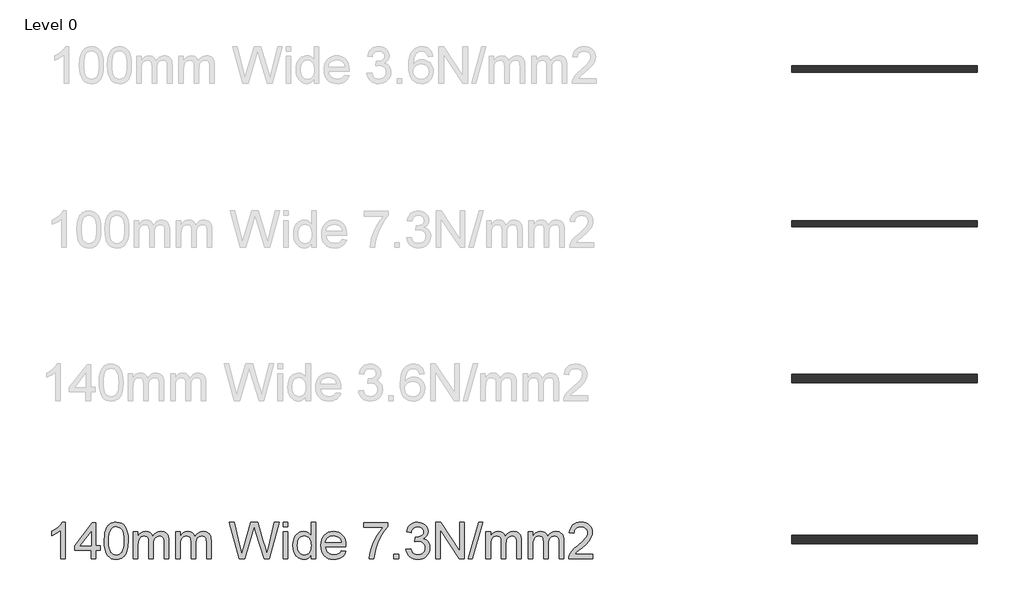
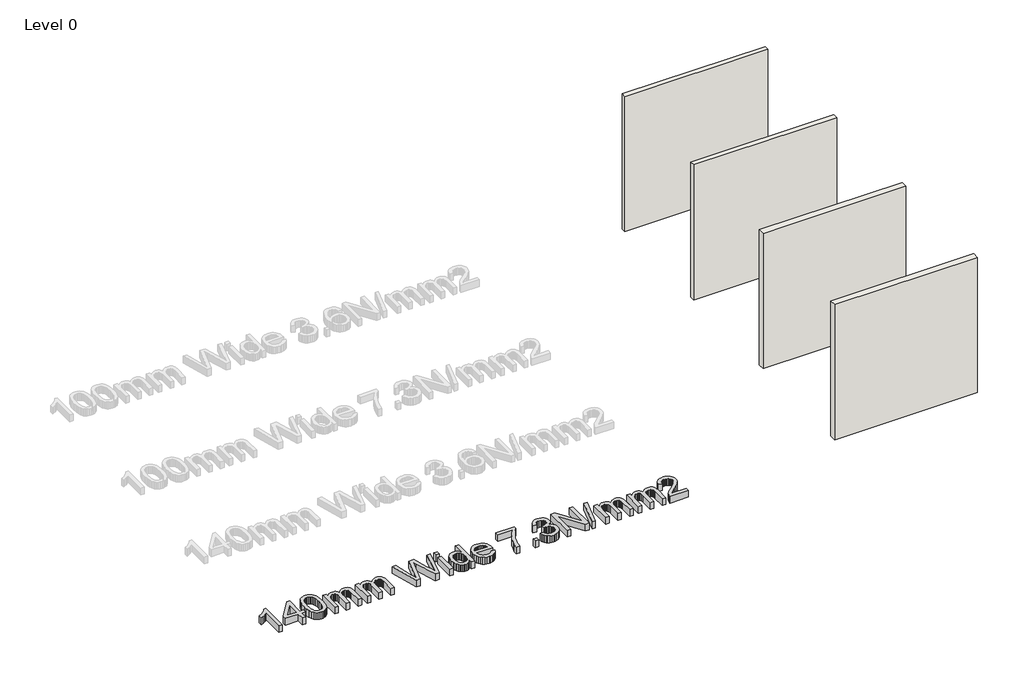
# One storey, part 1 of 4: 4 walls, 1 proxy.
"""IFC4 building model written with IfcOpenShell, lengths in millimetres."""

import ifcopenshell
import ifcopenshell.guid

model = None  # the IFC model being written
_history = None  # IfcOwnerHistory: only IFC2X3 demands one
_inside = {}  # id of a spatial element -> (the spatial element, [elements in it])
_under = {}  # id of a project, library or spatial element -> (it, [spatial elements below it])
_declared = {}  # id of a project -> (the project, [libraries it declares])
_typed = {}  # id of a type object -> (the type object, [elements of that type])
_made_of = {}  # id of a material, layer set ... -> (it, [elements and type objects made of it])


def new_model(schema):
    """Start an empty IFC model of exactly this schema.

    Asked for "IFC4X3", IfcOpenShell would pick the latest addendum, in which some entities
    have other attributes; the version numbers below select the first issue.
    IFC2X3 requires an IfcOwnerHistory on every rooted entity: one is made here for all.
    """
    global model, _history
    if schema == "IFC4X3":
        model = ifcopenshell.file(schema_version=(4, 3, 0, 0))
    else:
        model = ifcopenshell.file(schema=schema)
    _inside.clear()
    _under.clear()
    _declared.clear()
    _typed.clear()
    _made_of.clear()
    _history = None
    if model.schema == "IFC2X3":
        org = make("IfcOrganization", Name="unknown")
        user = make(
            "IfcPersonAndOrganization",
            ThePerson=make("IfcPerson", FamilyName="unknown"),
            TheOrganization=org,
        )
        app = make(
            "IfcApplication",
            ApplicationDeveloper=org,
            Version="unknown",
            ApplicationFullName="unknown",
            ApplicationIdentifier="unknown",
        )
        _history = make(
            "IfcOwnerHistory",
            OwningUser=user,
            OwningApplication=app,
            ChangeAction="ADDED",
            CreationDate=0,
        )
    return model


def make(cls, **values):
    """One entity of the class cls with the attributes given. An attribute that is None is left unset."""
    return model.create_entity(
        cls, **{name: value for name, value in values.items() if value is not None}
    )


def rooted(cls, **values):
    """An entity with a GlobalId (a new one), such as an element, a storey or a relation."""
    return make(cls, GlobalId=ifcopenshell.guid.new(), OwnerHistory=_history, **values)


def si_unit(unit_type, name, prefix=None):
    """IfcSIUnit, for example si_unit("LENGTHUNIT", "METRE", prefix="MILLI")."""
    return make("IfcSIUnit", UnitType=unit_type, Prefix=prefix, Name=name)


def assignment(units):
    """IfcUnitAssignment: the units of a project."""
    return None if units is None else make("IfcUnitAssignment", Units=units)


def point(xyz):
    """IfcCartesianPoint."""
    return None if xyz is None else make("IfcCartesianPoint", Coordinates=xyz)


def direction(xyz):
    """IfcDirection."""
    return None if xyz is None else make("IfcDirection", DirectionRatios=xyz)


def frame(location, z_axis=None, x_axis=None):
    """IfcAxis2Placement3D, a coordinate frame: its origin and axes. An axis left out is left unset."""
    return make(
        "IfcAxis2Placement3D",
        Location=point(location),
        Axis=direction(z_axis),
        RefDirection=direction(x_axis),
    )


def origin():
    """The frame at (0, 0, 0) with its axes left unset."""
    return frame((0.0, 0.0, 0.0))


def origin_with_axes():
    """The frame at (0, 0, 0) with the z axis (0, 0, 1) and the x axis (1, 0, 0) written out."""
    return frame((0.0, 0.0, 0.0), z_axis=(0.0, 0.0, 1.0), x_axis=(1.0, 0.0, 0.0))


def place(relative_to, where):
    """IfcLocalPlacement: puts the frame where relative to a parent placement (None: the world)."""
    return make(
        "IfcLocalPlacement", PlacementRelTo=relative_to, RelativePlacement=where
    )


def context(
    kind, dimensions, precision=None, world=None, true_north=None, identifier=None
):
    """IfcGeometricRepresentationContext, for example the 3D "Model" context."""
    return make(
        "IfcGeometricRepresentationContext",
        ContextIdentifier=identifier,
        ContextType=kind,
        CoordinateSpaceDimension=dimensions,
        Precision=precision,
        WorldCoordinateSystem=world,
        TrueNorth=true_north,
    )


def project(units=None, contexts=None):
    """IfcProject with its units and contexts."""
    return rooted(
        "IfcProject",
        Name="project",
        RepresentationContexts=contexts,
        UnitsInContext=assignment(units),
    )


def spatial(cls, under=None, at=None, **own):
    """A site, building, storey or space (cls), placed at a placement, below another one or the project."""
    s = rooted(cls, ObjectPlacement=at, **own)
    if under is not None:
        _under.setdefault(under.id(), (under, []))[1].append(s)
    return s


def polyline(points):
    """IfcPolyline through the points."""
    return make("IfcPolyline", Points=[point(p) for p in points])


def outline(outer, holes=None, kind="AREA"):
    """IfcArbitraryClosedProfileDef: a profile drawn as a closed curve; with holes, ...WithVoids."""
    if holes is None:
        return make("IfcArbitraryClosedProfileDef", ProfileType=kind, OuterCurve=outer)
    return make(
        "IfcArbitraryProfileDefWithVoids",
        ProfileType=kind,
        OuterCurve=outer,
        InnerCurves=holes,
    )


def extrude(swept, where, along, depth):
    """IfcExtrudedAreaSolid: the profile swept, set in the frame where, extruded along a direction by depth."""
    return make(
        "IfcExtrudedAreaSolid",
        SweptArea=swept,
        Position=where,
        ExtrudedDirection=direction(along),
        Depth=depth,
    )


def shape(context_of_items, identifier, shape_type, items):
    """IfcShapeRepresentation: the items that make up one representation, for example the "Body"."""
    return make(
        "IfcShapeRepresentation",
        ContextOfItems=context_of_items,
        RepresentationIdentifier=identifier,
        RepresentationType=shape_type,
        Items=items,
    )


def made_of(thing, what):
    """Note that an element or type object is made of a material, layer set ...; save() writes the relation."""
    if what is not None:
        _made_of.setdefault(what.id(), (what, []))[1].append(thing)
    return thing


def element(
    cls,
    number,
    at=None,
    inside=None,
    cuts=None,
    type_object=None,
    material=None,
    context=None,
    identifier="Body",
    shape_type=None,
    held_by="IfcProductDefinitionShape",
    body=None,
    shapes=None,
    **own,
):
    """One element of the class cls, such as IfcWall. Its Tag is "e" and its number.

    at: its placement. inside: the storey or other place that contains it. cuts: it is an
    opening in that element (IfcRelVoidsElement). A single representation is given by context,
    identifier, shape_type and body (its items); several are given by shapes. held_by: the class
    of the entity that holds the representations. save() writes the other relations.
    """
    e = rooted(cls, Tag="e%d" % number, ObjectPlacement=at, **own)
    if body is not None:
        shapes = [shape(context, identifier, shape_type, body)]
    if shapes is not None:
        e.Representation = make(held_by, Representations=shapes)
    if inside is not None:
        _inside.setdefault(inside.id(), (inside, []))[1].append(e)
    if cuts is not None:
        rooted(
            "IfcRelVoidsElement", RelatingBuildingElement=cuts, RelatedOpeningElement=e
        )
    if type_object is not None:
        _typed.setdefault(type_object.id(), (type_object, []))[1].append(e)
    return made_of(e, material)


def aggregate(whole, parts):
    """IfcRelAggregates: a whole, such as a stair, and the parts it consists of."""
    return rooted("IfcRelAggregates", RelatingObject=whole, RelatedObjects=parts)


def save(model, path):
    """Write the relations noted so far, then the file.

    IfcRelAggregates (storeys below a building ...), IfcRelContainedInSpatialStructure (elements
    in a storey), IfcRelDefinesByType, IfcRelAssociatesMaterial and IfcRelDeclares: one each for
    every whole, place, type object, material and project.
    """
    for whole, parts in _under.values():
        aggregate(whole, parts)
    for where, things in _inside.values():
        rooted(
            "IfcRelContainedInSpatialStructure",
            RelatedElements=things,
            RelatingStructure=where,
        )
    for kind, things in _typed.values():
        rooted("IfcRelDefinesByType", RelatedObjects=things, RelatingType=kind)
    for what, things in _made_of.values():
        rooted("IfcRelAssociatesMaterial", RelatedObjects=things, RelatingMaterial=what)
    for by, libraries in _declared.values():
        rooted("IfcRelDeclares", RelatingContext=by, RelatedDefinitions=libraries)
    model.write(path)


model = new_model("IFC4")

# Units and contexts
model_context = context("Model", 3, world=origin())
ifc_project = project(units=[si_unit("LENGTHUNIT", "METRE", prefix="MILLI")], contexts=[model_context])

# Site, building, storey
site = spatial("IfcSite", under=ifc_project)
building = spatial("IfcBuilding", under=site)
storey = spatial("IfcBuildingStorey", under=building, Name="Level 0", Elevation=0.0)

# Proxy
placement = place(None, origin())
element("IfcBuildingElementProxy", 1, Name="600mm Arial", ObjectType="600mm Arial", at=placement, inside=storey, context=model_context, shape_type="SweptSolid", body=[
    extrude(outline(polyline([(-38111.7793742, 11775.7706518), (-38185.6255281, 11775.7706518), (-38185.6255281, 12236.1552672), (-38216.454855, 12211.2213729), (-38255.5774512, 12186.3235364), (-38296.6471627, 12164.5627191), (-38333.3178358, 12149.0398826), (-38333.3178358, 12218.8475749), (-38275.3190377, 12250.3980556), (-38225.0726435, 12287.9341133), (-38185.4632685, 12327.8499787), (-38159.3755281, 12366.5398826), (-38111.7793742, 12366.5398826), (-38111.7793742, 11775.7706518)])), origin_with_axes(), (0.0, 0.0, 1.0), 150.0),
    extrude(outline(polyline([(-37696.3947588, 11775.7706518), (-37696.3947588, 11914.2321902), (-37964.0870665, 11914.2321902), (-37964.0870665, 11988.0783441), (-37677.9332204, 12357.3091133), (-37622.548605, 12357.3091133), (-37622.548605, 11988.0783441), (-37548.7024512, 11988.0783441), (-37548.7024512, 11914.2321902), (-37622.548605, 11914.2321902), (-37622.548605, 11775.7706518), (-37696.3947588, 11775.7706518)]), holes=[polyline([(-37696.3947588, 11988.0783441), (-37696.3947588, 12216.251421), (-37873.2216819, 11988.0783441), (-37696.3947588, 11988.0783441)])]), origin_with_axes(), (0.0, 0.0, 1.0), 150.0),
    extrude(outline(polyline([(-37484.0870665, 12066.3956518), (-37478.6603838, 12160.9569499), (-37471.8770305, 12201.0576109), (-37462.3803358, 12236.3716133), (-37450.2108646, 12267.1874186), (-37435.4091819, 12293.7934883), (-37417.9752877, 12316.1898225), (-37397.9091819, 12334.376421), (-37375.1432564, 12348.4479354), (-37349.6099031, 12358.4990172), (-37321.3091218, 12364.5296662), (-37290.2409127, 12366.5398826), (-37244.736105, 12361.7802672), (-37203.9909127, 12347.501421), (-37169.9163935, 12324.2622383), (-37144.423605, 12292.6216133), (-37125.1687973, 12252.8499787), (-37109.8082204, 12205.2177672), (-37099.7481242, 12144.7309883), (-37096.3947588, 12066.3956518), (-37101.767355, 11972.3752191), (-37108.4831002, 11932.4097744), (-37117.8851435, 11897.1408441), (-37129.9599632, 11866.3115172), (-37144.6940377, 11839.6648826), (-37162.087367, 11817.2009402), (-37182.1399512, 11798.9196902), (-37204.9329199, 11784.7535244), (-37230.5474031, 11774.6348345), (-37258.9834007, 11768.5636205), (-37290.2409127, 11766.5398826), (-37330.9139896, 11770.0555076), (-37366.9716819, 11780.6023826), (-37398.4139896, 11798.1805076), (-37425.2409127, 11822.7898826), (-37450.986105, 11867.2760604), (-37469.3755281, 11922.7057479), (-37480.4091819, 11989.0789451), (-37484.0870665, 12066.3956518)]), holes=[polyline([(-37410.2409127, 12066.5398826), (-37408.0774512, 12002.3436686), (-37401.5870665, 11950.3800268), (-37390.7697588, 11910.6489571), (-37375.6255281, 11883.1504595), (-37357.3082204, 11864.4410244), (-37336.9716819, 11851.0771422), (-37314.6159127, 11843.0588128), (-37290.2409127, 11840.3860364), (-37265.8659127, 11843.0678273), (-37243.5101435, 11851.1131999), (-37223.173605, 11864.5221542), (-37204.8562973, 11883.2946902), (-37189.7120665, 11910.83826), (-37178.8947588, 11950.5603152), (-37172.4043742, 12002.4608561), (-37170.2409127, 12066.5398826), (-37172.3322588, 12129.0368777), (-37178.6062973, 12180.0855556), (-37189.0630281, 12219.6859162), (-37203.7024512, 12247.8379595), (-37221.7132685, 12267.4623585), (-37242.2841819, 12281.4797864), (-37265.4151915, 12289.8902431), (-37291.1062973, 12292.6937287), (-37315.3550954, 12290.2237768), (-37337.3322588, 12282.813921), (-37357.0377877, 12270.4641614), (-37374.4716819, 12253.1744979), (-37390.1207204, 12222.5254595), (-37401.298605, 12181.2033441), (-37408.0053358, 12129.2081518), (-37410.2409127, 12066.5398826)])]), origin_with_axes(), (0.0, 0.0, 1.0), 150.0),
    extrude(outline(polyline([(-37013.3178358, 11775.7706518), (-37013.3178358, 12209.6168056), (-36939.4716819, 12209.6168056), (-36939.4716819, 12138.2225749), (-36917.2601435, 12171.017046), (-36888.7024512, 12196.7081518), (-36854.7721627, 12213.3127191), (-36816.4428358, 12218.8475749), (-36775.3731242, 12213.204546), (-36757.8941579, 12206.15076), (-36742.4524512, 12196.2754595), (-36717.861105, 12169.1781037), (-36701.7793742, 12133.0302672), (-36674.8623069, 12170.5753393), (-36644.1591819, 12197.3932479), (-36609.6699992, 12213.4839931), (-36571.3947588, 12218.8475749), (-36541.8319584, 12216.6165051), (-36515.8839415, 12209.923296), (-36493.5507084, 12198.7679475), (-36474.8322588, 12183.1504595), (-36460.0350834, 12162.8905436), (-36449.4656723, 12137.8079114), (-36443.1240257, 12107.9025628), (-36441.0101435, 12073.1744979), (-36441.0101435, 11775.7706518), (-36514.8562973, 11775.7706518), (-36514.8562973, 12041.4437287), (-36516.5690377, 12078.2766614), (-36521.7072588, 12103.1023826), (-36531.3346627, 12120.1035845), (-36546.5149512, 12133.4629595), (-36566.0401915, 12142.1168056), (-36588.7024512, 12145.001421), (-36609.6294343, 12143.1534643), (-36628.7084608, 12137.6095941), (-36645.9395305, 12128.3698104), (-36661.3226435, 12115.4341133), (-36673.9743863, 12098.423897), (-36683.0113454, 12076.9605556), (-36688.4335209, 12051.0440893), (-36690.2409127, 12020.6744979), (-36690.2409127, 11775.7706518), (-36764.0870665, 11775.7706518), (-36764.0870665, 12049.6648826), (-36768.3599031, 12091.4196902), (-36781.1784127, 12121.2033441), (-36791.0897709, 12131.6150027), (-36803.7324992, 12139.0519018), (-36819.1065978, 12143.5140412), (-36837.2120665, 12145.001421), (-36865.6615858, 12141.0350749), (-36891.8755281, 12129.1360364), (-36913.5101435, 12109.5927672), (-36928.2216819, 12082.6937287), (-36936.6591819, 12045.3740172), (-36939.4716819, 11994.5687287), (-36939.4716819, 11775.7706518), (-37013.3178358, 11775.7706518)])), origin_with_axes(), (0.0, 0.0, 1.0), 150.0),
    extrude(outline(polyline([(-36330.2409127, 11775.7706518), (-36330.2409127, 12209.6168056), (-36256.3947588, 12209.6168056), (-36256.3947588, 12138.2225749), (-36234.1832204, 12171.017046), (-36205.6255281, 12196.7081518), (-36171.6952396, 12213.3127191), (-36133.3659127, 12218.8475749), (-36092.2962012, 12213.204546), (-36074.8172348, 12206.15076), (-36059.3755281, 12196.2754595), (-36034.7841819, 12169.1781037), (-36018.7024512, 12133.0302672), (-35991.7853838, 12170.5753393), (-35961.0822588, 12197.3932479), (-35926.5930762, 12213.4839931), (-35888.3178358, 12218.8475749), (-35858.7550353, 12216.6165051), (-35832.8070185, 12209.923296), (-35810.4737853, 12198.7679475), (-35791.7553358, 12183.1504595), (-35776.9581603, 12162.8905436), (-35766.3887492, 12137.8079114), (-35760.0471026, 12107.9025628), (-35757.9332204, 12073.1744979), (-35757.9332204, 11775.7706518), (-35831.7793742, 11775.7706518), (-35831.7793742, 12041.4437287), (-35833.4921146, 12078.2766614), (-35838.6303358, 12103.1023826), (-35848.2577396, 12120.1035845), (-35863.4380281, 12133.4629595), (-35882.9632685, 12142.1168056), (-35905.6255281, 12145.001421), (-35926.5525113, 12143.1534643), (-35945.6315377, 12137.6095941), (-35962.8626074, 12128.3698104), (-35978.2457204, 12115.4341133), (-35990.8974632, 12098.423897), (-35999.9344223, 12076.9605556), (-36005.3565978, 12051.0440893), (-36007.1639896, 12020.6744979), (-36007.1639896, 11775.7706518), (-36081.0101435, 11775.7706518), (-36081.0101435, 12049.6648826), (-36085.28298, 12091.4196902), (-36098.1014896, 12121.2033441), (-36108.0128478, 12131.6150027), (-36120.6555762, 12139.0519018), (-36136.0296747, 12143.5140412), (-36154.1351435, 12145.001421), (-36182.5846627, 12141.0350749), (-36208.798605, 12129.1360364), (-36230.4332204, 12109.5927672), (-36245.1447588, 12082.6937287), (-36253.5822588, 12045.3740172), (-36256.3947588, 11994.5687287), (-36256.3947588, 11775.7706518), (-36330.2409127, 11775.7706518)])), origin_with_axes(), (0.0, 0.0, 1.0), 150.0),
    extrude(outline(polyline([(-35301.4428358, 11775.7706518), (-35462.548605, 12366.5398826), (-35386.3947588, 12366.5398826), (-35292.9332204, 11978.2706518), (-35264.0870665, 11858.4148826), (-35233.2216819, 11964.4244979), (-35116.1062973, 12366.5398826), (-35006.3466819, 12366.5398826), (-34921.2505281, 12075.0494979), (-34884.7962012, 11966.876421), (-34857.9332204, 11858.4148826), (-34829.9524512, 11974.8091133), (-34735.6255281, 12366.5398826), (-34659.4716819, 12366.5398826), (-34820.7216819, 11775.7706518), (-34899.6159127, 11775.7706518), (-35041.2505281, 12231.5398826), (-35061.0101435, 12295.1456518), (-35083.2216819, 12218.5591133), (-35212.3082204, 11775.7706518), (-35301.4428358, 11775.7706518)])), origin_with_axes(), (0.0, 0.0, 1.0), 150.0),
    extrude(outline(polyline([(-34594.8562973, 11775.7706518), (-34594.8562973, 12209.6168056), (-34521.0101435, 12209.6168056), (-34521.0101435, 11775.7706518), (-34594.8562973, 11775.7706518)])), origin_with_axes(), (0.0, 0.0, 1.0), 150.0),
    extrude(outline(polyline([(-34594.8562973, 12292.6937287), (-34594.8562973, 12366.5398826), (-34521.0101435, 12366.5398826), (-34521.0101435, 12292.6937287), (-34594.8562973, 12292.6937287)])), origin_with_axes(), (0.0, 0.0, 1.0), 150.0),
    extrude(outline(polyline([(-34142.548605, 11775.7706518), (-34142.548605, 11845.4341133), (-34164.642956, 11810.9178874), (-34191.4067781, 11786.2634402), (-34222.8400713, 11771.470772), (-34258.9428358, 11766.5398826), (-34283.3178358, 11768.3247383), (-34306.6832204, 11773.6793056), (-34329.0389896, 11782.6035845), (-34350.3851435, 11795.0975749), (-34370.0546146, 11810.7871782), (-34387.3803358, 11829.298296), (-34402.3623069, 11850.6309282), (-34415.0005281, 11874.7850749), (-34425.033581, 11901.3010003), (-34432.2000473, 11929.7189691), (-34437.9332204, 11992.2610364), (-34432.6507685, 12054.0278633), (-34416.8034127, 12109.8091133), (-34404.9224031, 12134.6618777), (-34390.4091819, 12156.4317095), (-34373.2637492, 12175.1186085), (-34353.486105, 12190.7225749), (-34331.774867, 12203.0272624), (-34308.8286531, 12211.8163249), (-34284.6474632, 12217.0897624), (-34259.2312973, 12218.8475749), (-34223.1014896, 12213.8175268), (-34191.1543742, 12198.7273826), (-34164.0750473, 12175.5963729), (-34142.548605, 12146.4437287), (-34142.548605, 12366.5398826), (-34068.7024512, 12366.5398826), (-34068.7024512, 11775.7706518), (-34142.548605, 11775.7706518)]), holes=[polyline([(-34364.0870665, 11992.5494979), (-34362.0047348, 11956.7397023), (-34355.7577396, 11925.7526229), (-34345.346081, 11899.58826), (-34330.7697588, 11878.2466133), (-34313.3629079, 11861.6826109), (-34294.4596627, 11849.8511806), (-34274.0600233, 11842.7523225), (-34252.1639896, 11840.3860364), (-34230.1642901, 11842.6441494), (-34209.8863454, 11849.4184883), (-34191.3301555, 11860.7090532), (-34174.4957204, 11876.5158441), (-34160.5188574, 11896.9650628), (-34150.5353838, 11922.1829114), (-34144.5452997, 11952.1693898), (-34142.548605, 11986.9244979), (-34144.5813574, 12025.0284643), (-34150.6796146, 12057.7057479), (-34160.8433766, 12084.9563489), (-34175.0726435, 12106.7802672), (-34192.2766699, 12123.502022), (-34211.3647108, 12135.4461326), (-34232.3367661, 12142.6125989), (-34255.1928358, 12145.001421), (-34277.5215617, 12142.7072503), (-34297.9212012, 12135.8247383), (-34316.391754, 12124.353885), (-34332.9332204, 12108.2946902), (-34346.5630281, 12087.2955917), (-34356.298605, 12061.0050268), (-34362.1399512, 12029.4229955), (-34364.0870665, 11992.5494979)])]), origin_with_axes(), (0.0, 0.0, 1.0), 150.0),
    extrude(outline(polyline([(-33654.1832204, 11905.001421), (-33581.7793742, 11895.7706518), (-33592.8806363, 11866.7712527), (-33607.8671146, 11841.2153633), (-33626.7388093, 11819.1029835), (-33649.4957204, 11800.4341133), (-33675.9034728, 11785.6053874), (-33705.7276915, 11775.0134402), (-33738.9683766, 11768.658272), (-33775.6255281, 11766.5398826), (-33821.4458406, 11770.1952311), (-33862.2721627, 11781.1612768), (-33898.1044944, 11799.4380196), (-33928.9428358, 11825.0254595), (-33953.7415137, 11857.2114571), (-33971.454855, 11895.2838729), (-33982.0828598, 11939.2427071), (-33985.6255281, 11989.0879595), (-33982.0468021, 12040.6234162), (-33971.3106242, 12086.0470941), (-33953.4169944, 12125.3589931), (-33928.3659127, 12158.5591133), (-33897.6087012, 12184.9353152), (-33862.5966819, 12203.7754595), (-33823.329855, 12215.079546), (-33779.8082204, 12218.8475749), (-33737.6883286, 12215.0885604), (-33699.5978838, 12203.8115172), (-33665.5368863, 12185.0164451), (-33635.5053358, 12158.7033441), (-33610.9906122, 12125.5753393), (-33593.4800954, 12086.3355556), (-33582.9737853, 12040.9839931), (-33579.4716819, 11989.5206518), (-33579.9043742, 11969.6168056), (-33911.7793742, 11969.6168056), (-33907.5020305, 11940.1486566), (-33898.9969223, 11914.3403633), (-33886.2640497, 11892.1919258), (-33869.3034127, 11873.7033441), (-33849.0525113, 11859.127022), (-33826.4488454, 11848.7153633), (-33801.4924151, 11842.4683681), (-33774.1832204, 11840.3860364), (-33734.8803358, 11844.2442095), (-33701.7793742, 11855.8187287), (-33674.8803358, 11875.8307479), (-33654.1832204, 11905.001421)]), holes=[polyline([(-33911.7793742, 12043.4629595), (-33653.3178358, 12043.4629595), (-33663.3058165, 12082.4773826), (-33671.8965617, 12097.8199306), (-33682.8851435, 12110.3860364), (-33703.0233646, 12125.5302672), (-33725.9380281, 12136.3475749), (-33751.6291338, 12142.8379595), (-33780.0966819, 12145.001421), (-33806.0627276, 12143.275159), (-33829.8743262, 12138.0963729), (-33851.5314776, 12129.4650628), (-33871.0341819, 12117.3812287), (-33887.399867, 12102.4037648), (-33899.6459608, 12085.0915652), (-33907.7724632, 12065.4446301), (-33911.7793742, 12043.4629595)])]), origin_with_axes(), (0.0, 0.0, 1.0), 150.0),
    extrude(outline(polyline([(-33293.3178358, 12283.4629595), (-33293.3178358, 12357.3091133), (-32905.6255281, 12357.3091133), (-32905.6255281, 12297.5975749), (-32960.8839415, 12227.6636806), (-33015.6014896, 12138.7273826), (-33063.8647108, 12038.9016614), (-33099.7601435, 11936.2994979), (-33117.3562973, 11859.532671), (-33127.1639896, 11775.7706518), (-33201.0101435, 11775.7706518), (-33193.0233646, 11851.8884402), (-33171.6591819, 11942.3571902), (-33137.4945185, 12038.2526229), (-33091.1062973, 12130.6504595), (-33036.9476435, 12214.1781037), (-32979.4716819, 12283.4629595), (-33293.3178358, 12283.4629595)])), origin_with_axes(), (0.0, 0.0, 1.0), 150.0),
    extrude(outline(polyline([(-32804.0870665, 11775.7706518), (-32804.0870665, 11849.6168056), (-32730.2409127, 11849.6168056), (-32730.2409127, 11775.7706518), (-32804.0870665, 11775.7706518)])), origin_with_axes(), (0.0, 0.0, 1.0), 150.0),
    extrude(outline(polyline([(-32610.2409127, 11932.6937287), (-32536.3947588, 11941.9244979), (-32519.8623069, 11895.5182479), (-32508.7159728, 11877.9671662), (-32495.6495665, 11864.1841133), (-32480.3656122, 11853.7724547), (-32462.5666338, 11846.3355556), (-32442.2526314, 11841.8734162), (-32419.423605, 11840.3860364), (-32392.6687973, 11842.4323104), (-32368.798605, 11848.5711326), (-32347.8130281, 11858.8025027), (-32329.7120665, 11873.126421), (-32315.1357444, 11890.470171), (-32304.7240858, 11909.7610364), (-32298.4770906, 11930.9990172), (-32296.3947588, 11954.1841133), (-32298.4590617, 11976.2649426), (-32304.6519704, 11996.3535845), (-32314.9734848, 12014.4500388), (-32329.423605, 12030.5543056), (-32347.0558165, 12043.7739571), (-32366.923605, 12053.2165652), (-32389.0269704, 12058.8821301), (-32413.3659127, 12060.7706518), (-32436.6952396, 12058.751421), (-32465.1447588, 12052.6937287), (-32456.923605, 12126.5398826), (-32445.0966819, 12125.6744979), (-32400.8538935, 12130.9749787), (-32361.298605, 12146.876421), (-32345.0185569, 12158.9016614), (-32333.3899512, 12173.7754595), (-32326.4127877, 12191.4978152), (-32324.0870665, 12212.0687287), (-32325.7727637, 12228.7679475), (-32330.829855, 12243.9617576), (-32339.2583406, 12257.650159), (-32351.0582204, 12269.8331518), (-32365.517355, 12279.8346542), (-32381.923605, 12286.9785845), (-32420.5774512, 12292.6937287), (-32459.3034127, 12286.9244979), (-32476.0161531, 12279.7129595), (-32490.9620665, 12269.6168056), (-32503.7715617, 12256.6360364), (-32514.0750473, 12240.7706518), (-32521.8725233, 12222.0206518), (-32527.1639896, 12200.3860364), (-32601.0101435, 12209.6168056), (-32592.2571387, 12244.8722143), (-32579.267355, 12275.9269018), (-32562.0407925, 12302.7808681), (-32540.5774512, 12325.4341133), (-32515.5534127, 12343.4178874), (-32487.6447588, 12356.2634402), (-32456.8514896, 12363.970772), (-32423.173605, 12366.5398826), (-32376.7493262, 12361.4737768), (-32334.111105, 12346.2754595), (-32298.1615858, 12322.2970941), (-32271.8034127, 12290.8908441), (-32255.6315377, 12254.7069499), (-32250.2409127, 12216.3956518), (-32255.361105, 12180.6985364), (-32270.7216819, 12148.3187287), (-32296.1062973, 12120.7345941), (-32331.298605, 12099.4244979), (-32306.68923, 12091.7261806), (-32285.0726435, 12080.7466133), (-32266.4488454, 12066.485796), (-32250.8178358, 12048.9437287), (-32238.4500473, 12028.5531037), (-32229.6159127, 12005.7466133), (-32224.3154319, 11980.5242576), (-32222.548605, 11952.8860364), (-32226.0822588, 11915.4220941), (-32236.6832204, 11880.9148826), (-32254.3514896, 11849.3644018), (-32279.0870665, 11820.7706518), (-32309.2222829, 11797.0446902), (-32343.0894704, 11780.0975749), (-32380.688629, 11769.9293056), (-32422.0197588, 11766.5398826), (-32459.3755281, 11769.4335124), (-32493.4139896, 11778.1144018), (-32524.1351435, 11792.5825508), (-32551.5389896, 11812.8379595), (-32574.516754, 11837.6907239), (-32591.9596627, 11865.9509402), (-32603.8677156, 11897.6186085), (-32610.2409127, 11932.6937287)])), origin_with_axes(), (0.0, 0.0, 1.0), 150.0),
    extrude(outline(polyline([(-32130.2409127, 11775.7706518), (-32130.2409127, 12366.5398826), (-32051.2024512, 12366.5398826), (-31742.548605, 11898.5110364), (-31742.548605, 12366.5398826), (-31668.7024512, 12366.5398826), (-31668.7024512, 11775.7706518), (-31747.7409127, 11775.7706518), (-32056.3947588, 12243.9437287), (-32056.3947588, 11775.7706518), (-32130.2409127, 11775.7706518)])), origin_with_axes(), (0.0, 0.0, 1.0), 150.0),
    extrude(outline(polyline([(-31604.0870665, 11775.7706518), (-31437.9332204, 12366.5398826), (-31371.298605, 12366.5398826), (-31537.4524512, 11775.7706518), (-31604.0870665, 11775.7706518)])), origin_with_axes(), (0.0, 0.0, 1.0), 150.0),
    extrude(outline(polyline([(-31317.9332204, 11775.7706518), (-31317.9332204, 12209.6168056), (-31244.0870665, 12209.6168056), (-31244.0870665, 12138.2225749), (-31221.8755281, 12171.017046), (-31193.3178358, 12196.7081518), (-31159.3875473, 12213.3127191), (-31121.0582204, 12218.8475749), (-31079.9885088, 12213.204546), (-31062.5095425, 12206.15076), (-31047.0678358, 12196.2754595), (-31022.4764896, 12169.1781037), (-31006.3947588, 12133.0302672), (-30979.4776915, 12170.5753393), (-30948.7745665, 12197.3932479), (-30914.2853838, 12213.4839931), (-30876.0101435, 12218.8475749), (-30846.447343, 12216.6165051), (-30820.4993262, 12209.923296), (-30798.166093, 12198.7679475), (-30779.4476435, 12183.1504595), (-30764.650468, 12162.8905436), (-30754.0810569, 12137.8079114), (-30747.7394103, 12107.9025628), (-30745.6255281, 12073.1744979), (-30745.6255281, 11775.7706518), (-30819.4716819, 11775.7706518), (-30819.4716819, 12041.4437287), (-30821.1844223, 12078.2766614), (-30826.3226435, 12103.1023826), (-30835.9500473, 12120.1035845), (-30851.1303358, 12133.4629595), (-30870.6555762, 12142.1168056), (-30893.3178358, 12145.001421), (-30914.2448189, 12143.1534643), (-30933.3238454, 12137.6095941), (-30950.5549151, 12128.3698104), (-30965.9380281, 12115.4341133), (-30978.5897709, 12098.423897), (-30987.62673, 12076.9605556), (-30993.0489055, 12051.0440893), (-30994.8562973, 12020.6744979), (-30994.8562973, 11775.7706518), (-31068.7024512, 11775.7706518), (-31068.7024512, 12049.6648826), (-31072.9752877, 12091.4196902), (-31085.7937973, 12121.2033441), (-31095.7051555, 12131.6150027), (-31108.3478838, 12139.0519018), (-31123.7219824, 12143.5140412), (-31141.8274512, 12145.001421), (-31170.2769704, 12141.0350749), (-31196.4909127, 12129.1360364), (-31218.1255281, 12109.5927672), (-31232.8370665, 12082.6937287), (-31241.2745665, 12045.3740172), (-31244.0870665, 11994.5687287), (-31244.0870665, 11775.7706518), (-31317.9332204, 11775.7706518)])), origin_with_axes(), (0.0, 0.0, 1.0), 150.0),
    extrude(outline(polyline([(-30634.8562973, 11775.7706518), (-30634.8562973, 12209.6168056), (-30561.0101435, 12209.6168056), (-30561.0101435, 12138.2225749), (-30538.798605, 12171.017046), (-30510.2409127, 12196.7081518), (-30476.3106242, 12213.3127191), (-30437.9812973, 12218.8475749), (-30396.9115858, 12213.204546), (-30379.4326194, 12206.15076), (-30363.9909127, 12196.2754595), (-30339.3995665, 12169.1781037), (-30323.3178358, 12133.0302672), (-30296.4007685, 12170.5753393), (-30265.6976435, 12197.3932479), (-30231.2084608, 12213.4839931), (-30192.9332204, 12218.8475749), (-30163.3704199, 12216.6165051), (-30137.4224031, 12209.923296), (-30115.0891699, 12198.7679475), (-30096.3707204, 12183.1504595), (-30081.5735449, 12162.8905436), (-30071.0041338, 12137.8079114), (-30064.6624872, 12107.9025628), (-30062.548605, 12073.1744979), (-30062.548605, 11775.7706518), (-30136.3947588, 11775.7706518), (-30136.3947588, 12041.4437287), (-30138.1074992, 12078.2766614), (-30143.2457204, 12103.1023826), (-30152.8731242, 12120.1035845), (-30168.0534127, 12133.4629595), (-30187.5786531, 12142.1168056), (-30210.2409127, 12145.001421), (-30231.1678959, 12143.1534643), (-30250.2469223, 12137.6095941), (-30267.477992, 12128.3698104), (-30282.861105, 12115.4341133), (-30295.5128478, 12098.423897), (-30304.5498069, 12076.9605556), (-30309.9719824, 12051.0440893), (-30311.7793742, 12020.6744979), (-30311.7793742, 11775.7706518), (-30385.6255281, 11775.7706518), (-30385.6255281, 12049.6648826), (-30389.8983646, 12091.4196902), (-30402.7168742, 12121.2033441), (-30412.6282324, 12131.6150027), (-30425.2709608, 12139.0519018), (-30440.6450593, 12143.5140412), (-30458.7505281, 12145.001421), (-30487.2000473, 12141.0350749), (-30513.4139896, 12129.1360364), (-30535.048605, 12109.5927672), (-30549.7601435, 12082.6937287), (-30558.1976435, 12045.3740172), (-30561.0101435, 11994.5687287), (-30561.0101435, 11775.7706518), (-30634.8562973, 11775.7706518)])), origin_with_axes(), (0.0, 0.0, 1.0), 150.0),
    extrude(outline(polyline([(-29591.7793742, 11849.6168056), (-29591.7793742, 11775.7706518), (-29979.4716819, 11775.7706518), (-29977.8490858, 11801.7682479), (-29971.5389896, 11826.6841133), (-29953.329855, 11866.4737768), (-29926.6832204, 11905.0735364), (-29888.1375473, 11945.4761806), (-29834.2312973, 11990.6744979), (-29754.5437973, 12061.4557479), (-29706.7312973, 12113.7033441), (-29692.7859848, 12135.0494979), (-29682.8250473, 12156.1071902), (-29676.8484848, 12176.876421), (-29674.8562973, 12197.3571902), (-29676.7358045, 12216.6255196), (-29682.3743262, 12234.3343537), (-29691.7718622, 12250.4836926), (-29704.9284127, 12265.0735364), (-29721.1138093, 12277.1573705), (-29739.5978838, 12285.7886806), (-29760.3806363, 12290.9674667), (-29783.4620665, 12292.6937287), (-29807.7784728, 12291.0080316), (-29829.5257685, 12285.9509402), (-29848.7039536, 12277.5224547), (-29865.3130281, 12265.7225749), (-29878.7490257, 12250.9479354), (-29888.40798, 12233.595171), (-29894.2898911, 12213.6642816), (-29896.3947588, 12191.1552672), (-29970.2409127, 12200.3860364), (-29963.8902516, 12238.5080316), (-29952.3382685, 12271.8163249), (-29935.5849632, 12300.3109162), (-29913.6303358, 12323.9918056), (-29886.9791939, 12342.6065893), (-29856.1363454, 12355.9028633), (-29821.1017901, 12363.8806277), (-29781.8755281, 12366.5398826), (-29742.2977036, 12363.5831518), (-29707.0738454, 12354.7129595), (-29676.2039536, 12339.9293056), (-29649.6880281, 12319.2321902), (-29628.3914536, 12294.1540652), (-29613.1796146, 12266.2273826), (-29604.0525113, 12235.4521422), (-29601.0101435, 12201.8283441), (-29604.2913935, 12166.5098345), (-29614.1351435, 12131.8043056), (-29631.6050954, 12096.5038249), (-29657.7649512, 12059.4004595), (-29699.4656723, 12015.1035845), (-29763.5582204, 11958.2225749), (-29848.5101435, 11887.188921), (-29881.8274512, 11849.6168056), (-29591.7793742, 11849.6168056)])), origin_with_axes(), (0.0, 0.0, 1.0), 150.0),
])

# Walls
element("IfcWall", 2, ObjectType="Interlyte_UltraMasonryUnit_Solid-140mmWide_3.6N/mm2", at=placement, inside=storey, context=model_context, shape_type="SweptSolid", body=[
    extrude(outline(polyline([(-23378.7493607, 14619.3583124), (-26378.7493607, 14619.3583124), (-26378.7493607, 14759.3583124), (-23378.7493607, 14759.3583124), (-23378.7493607, 14619.3583124)])), origin_with_axes(), (0.0, 0.0, 1.0), 3000.0),
])
element("IfcWall", 3, ObjectType="Interlyte_UltraMasonryUnit_Solid-100mmWide_7.3N/mm2", at=placement, inside=storey, context=model_context, shape_type="SweptSolid", body=[
    extrude(outline(polyline([(-23378.7493607, 17139.3583124), (-26378.7493607, 17139.3583124), (-26378.7493607, 17239.3583124), (-23378.7493607, 17239.3583124), (-23378.7493607, 17139.3583124)])), origin_with_axes(), (0.0, 0.0, 1.0), 3000.0),
])
element("IfcWall", 4, ObjectType="Interlyte_UltraMasonryUnit_Solid-100mmWide_3.6N/mm2", at=placement, inside=storey, context=model_context, shape_type="SweptSolid", body=[
    extrude(outline(polyline([(-23378.7493607, 19639.3583124), (-26378.7493607, 19639.3583124), (-26378.7493607, 19739.3583124), (-23378.7493607, 19739.3583124), (-23378.7493607, 19639.3583124)])), origin_with_axes(), (0.0, 0.0, 1.0), 3000.0),
])
element("IfcWall", 5, ObjectType="Interlyte_UltraMasonryUnit_Solid-140mmWide_7.3N/mm2", at=placement, inside=storey, context=model_context, shape_type="SweptSolid", body=[
    extrude(outline(polyline([(-23378.7493607, 12019.3583124), (-26378.7493607, 12019.3583124), (-26378.7493607, 12159.3583124), (-23378.7493607, 12159.3583124), (-23378.7493607, 12019.3583124)])), origin_with_axes(), (0.0, 0.0, 1.0), 3000.0),
])

save(model, "model.ifc")
